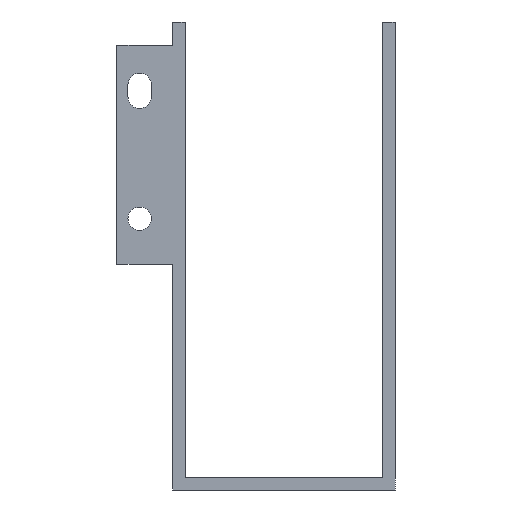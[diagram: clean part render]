
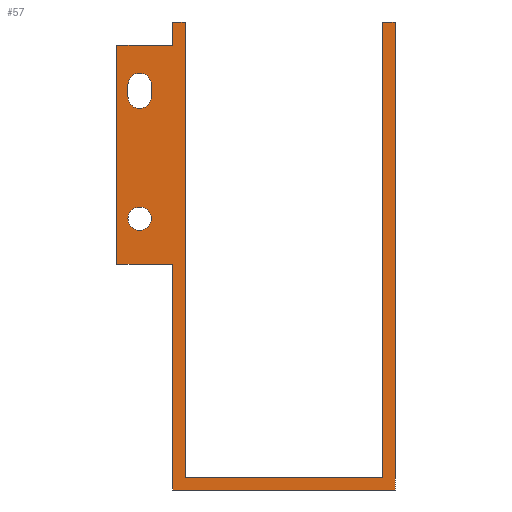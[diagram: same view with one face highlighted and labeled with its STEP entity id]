
A CAD part, front view. The second image highlights one B-rep face of the part: STEP entity #57.
In plain terms, the highlighted planar face has unit normal (0, -1, 0).
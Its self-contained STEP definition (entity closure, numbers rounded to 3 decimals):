
#21 = EDGE_CURVE('',#22,#24,#26,.T.);
#22 = VERTEX_POINT('',#23);
#23 = CARTESIAN_POINT('',(22.,0.,89.15));
#24 = VERTEX_POINT('',#25);
#25 = CARTESIAN_POINT('',(0.,0.,89.15));
#26 = LINE('',#27,#28);
#27 = CARTESIAN_POINT('',(27.,0.,89.15));
#28 = VECTOR('',#29,1.);
#29 = DIRECTION('',(-1.,0.,0.));
#57 = ADVANCED_FACE('',(#58,#147,#158),#194,.T.);
#58 = FACE_BOUND('',#59,.T.);
#59 = EDGE_LOOP('',(#60,#70,#78,#86,#94,#102,#110,#118,#126,#134,#140,
    #141));
#60 = ORIENTED_EDGE('',*,*,#61,.F.);
#61 = EDGE_CURVE('',#62,#64,#66,.T.);
#62 = VERTEX_POINT('',#63);
#63 = CARTESIAN_POINT('',(110.,0.,0.));
#64 = VERTEX_POINT('',#65);
#65 = CARTESIAN_POINT('',(22.,0.,0.));
#66 = LINE('',#67,#68);
#67 = CARTESIAN_POINT('',(110.,0.,0.));
#68 = VECTOR('',#69,1.);
#69 = DIRECTION('',(-1.,0.,0.));
#70 = ORIENTED_EDGE('',*,*,#71,.T.);
#71 = EDGE_CURVE('',#62,#72,#74,.T.);
#72 = VERTEX_POINT('',#73);
#73 = CARTESIAN_POINT('',(110.,0.,185.));
#74 = LINE('',#75,#76);
#75 = CARTESIAN_POINT('',(110.,0.,0.));
#76 = VECTOR('',#77,1.);
#77 = DIRECTION('',(0.,0.,1.));
#78 = ORIENTED_EDGE('',*,*,#79,.T.);
#79 = EDGE_CURVE('',#72,#80,#82,.T.);
#80 = VERTEX_POINT('',#81);
#81 = CARTESIAN_POINT('',(105.,0.,185.));
#82 = LINE('',#83,#84);
#83 = CARTESIAN_POINT('',(110.,0.,185.));
#84 = VECTOR('',#85,1.);
#85 = DIRECTION('',(-1.,0.,0.));
#86 = ORIENTED_EDGE('',*,*,#87,.F.);
#87 = EDGE_CURVE('',#88,#80,#90,.T.);
#88 = VERTEX_POINT('',#89);
#89 = CARTESIAN_POINT('',(105.,0.,5.));
#90 = LINE('',#91,#92);
#91 = CARTESIAN_POINT('',(105.,0.,0.));
#92 = VECTOR('',#93,1.);
#93 = DIRECTION('',(0.,0.,1.));
#94 = ORIENTED_EDGE('',*,*,#95,.T.);
#95 = EDGE_CURVE('',#88,#96,#98,.T.);
#96 = VERTEX_POINT('',#97);
#97 = CARTESIAN_POINT('',(27.,0.,5.));
#98 = LINE('',#99,#100);
#99 = CARTESIAN_POINT('',(105.,0.,5.));
#100 = VECTOR('',#101,1.);
#101 = DIRECTION('',(-1.,0.,0.));
#102 = ORIENTED_EDGE('',*,*,#103,.T.);
#103 = EDGE_CURVE('',#96,#104,#106,.T.);
#104 = VERTEX_POINT('',#105);
#105 = CARTESIAN_POINT('',(27.,0.,185.));
#106 = LINE('',#107,#108);
#107 = CARTESIAN_POINT('',(27.,0.,0.));
#108 = VECTOR('',#109,1.);
#109 = DIRECTION('',(0.,0.,1.));
#110 = ORIENTED_EDGE('',*,*,#111,.T.);
#111 = EDGE_CURVE('',#104,#112,#114,.T.);
#112 = VERTEX_POINT('',#113);
#113 = CARTESIAN_POINT('',(22.,0.,185.));
#114 = LINE('',#115,#116);
#115 = CARTESIAN_POINT('',(27.,0.,185.));
#116 = VECTOR('',#117,1.);
#117 = DIRECTION('',(-1.,0.,0.));
#118 = ORIENTED_EDGE('',*,*,#119,.F.);
#119 = EDGE_CURVE('',#120,#112,#122,.T.);
#120 = VERTEX_POINT('',#121);
#121 = CARTESIAN_POINT('',(22.,0.,175.85));
#122 = LINE('',#123,#124);
#123 = CARTESIAN_POINT('',(22.,0.,0.));
#124 = VECTOR('',#125,1.);
#125 = DIRECTION('',(0.,0.,1.));
#126 = ORIENTED_EDGE('',*,*,#127,.T.);
#127 = EDGE_CURVE('',#120,#128,#130,.T.);
#128 = VERTEX_POINT('',#129);
#129 = CARTESIAN_POINT('',(0.,0.,175.85));
#130 = LINE('',#131,#132);
#131 = CARTESIAN_POINT('',(27.,0.,175.85));
#132 = VECTOR('',#133,1.);
#133 = DIRECTION('',(-1.,0.,0.));
#134 = ORIENTED_EDGE('',*,*,#135,.F.);
#135 = EDGE_CURVE('',#24,#128,#136,.T.);
#136 = LINE('',#137,#138);
#137 = CARTESIAN_POINT('',(0.,0.,89.15));
#138 = VECTOR('',#139,1.);
#139 = DIRECTION('',(0.,0.,1.));
#140 = ORIENTED_EDGE('',*,*,#21,.F.);
#141 = ORIENTED_EDGE('',*,*,#142,.F.);
#142 = EDGE_CURVE('',#64,#22,#143,.T.);
#143 = LINE('',#144,#145);
#144 = CARTESIAN_POINT('',(22.,0.,0.));
#145 = VECTOR('',#146,1.);
#146 = DIRECTION('',(0.,0.,1.));
#147 = FACE_BOUND('',#148,.T.);
#148 = EDGE_LOOP('',(#149));
#149 = ORIENTED_EDGE('',*,*,#150,.T.);
#150 = EDGE_CURVE('',#151,#151,#153,.T.);
#151 = VERTEX_POINT('',#152);
#152 = CARTESIAN_POINT('',(4.4,0.,107.235));
#153 = CIRCLE('',#154,4.6);
#154 = AXIS2_PLACEMENT_3D('',#155,#156,#157);
#155 = CARTESIAN_POINT('',(9.,0.,107.235));
#156 = DIRECTION('',(0.,1.,0.));
#157 = DIRECTION('',(-1.,0.,0.));
#158 = FACE_BOUND('',#159,.T.);
#159 = EDGE_LOOP('',(#160,#170,#179,#187));
#160 = ORIENTED_EDGE('',*,*,#161,.T.);
#161 = EDGE_CURVE('',#162,#164,#166,.T.);
#162 = VERTEX_POINT('',#163);
#163 = CARTESIAN_POINT('',(13.6,0.,160.165));
#164 = VERTEX_POINT('',#165);
#165 = CARTESIAN_POINT('',(13.6,0.,155.365));
#166 = LINE('',#167,#168);
#167 = CARTESIAN_POINT('',(13.6,0.,117.943));
#168 = VECTOR('',#169,1.);
#169 = DIRECTION('',(0.,0.,-1.));
#170 = ORIENTED_EDGE('',*,*,#171,.T.);
#171 = EDGE_CURVE('',#164,#172,#174,.T.);
#172 = VERTEX_POINT('',#173);
#173 = CARTESIAN_POINT('',(4.4,0.,155.365));
#174 = CIRCLE('',#175,4.6);
#175 = AXIS2_PLACEMENT_3D('',#176,#177,#178);
#176 = CARTESIAN_POINT('',(9.,0.,155.365));
#177 = DIRECTION('',(0.,1.,0.));
#178 = DIRECTION('',(-1.,0.,0.));
#179 = ORIENTED_EDGE('',*,*,#180,.F.);
#180 = EDGE_CURVE('',#181,#172,#183,.T.);
#181 = VERTEX_POINT('',#182);
#182 = CARTESIAN_POINT('',(4.4,0.,160.165));
#183 = LINE('',#184,#185);
#184 = CARTESIAN_POINT('',(4.4,0.,117.943));
#185 = VECTOR('',#186,1.);
#186 = DIRECTION('',(0.,0.,-1.));
#187 = ORIENTED_EDGE('',*,*,#188,.T.);
#188 = EDGE_CURVE('',#181,#162,#189,.T.);
#189 = CIRCLE('',#190,4.6);
#190 = AXIS2_PLACEMENT_3D('',#191,#192,#193);
#191 = CARTESIAN_POINT('',(9.,0.,160.165));
#192 = DIRECTION('',(0.,1.,0.));
#193 = DIRECTION('',(-1.,0.,0.));
#194 = PLANE('',#195);
#195 = AXIS2_PLACEMENT_3D('',#196,#197,#198);
#196 = CARTESIAN_POINT('',(61.445,0.,80.521));
#197 = DIRECTION('',(0.,-1.,0.));
#198 = DIRECTION('',(1.,0.,0.));
